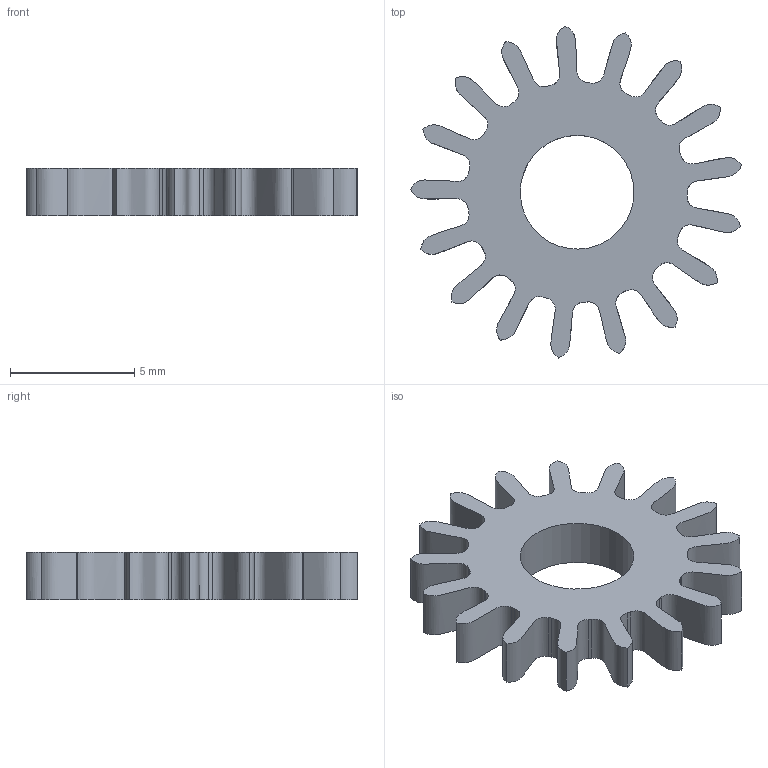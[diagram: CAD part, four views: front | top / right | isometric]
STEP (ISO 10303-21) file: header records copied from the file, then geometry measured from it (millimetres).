
FILE_DESCRIPTION(/* description */ (''),/* implementation_level */ '2;1');
FILE_NAME(/* name */ 'D:\Desktop\WatchCAdFiles\print2endTime\3.5\Solid4.stp',/* time_stamp */ '2019-05-02T16:56:21+02:00',/* author */ ('fkhad'),/* organization */ (''),/* preprocessor_version */ 'ST-DEVELOPER v17',/* originating_system */ 'Autodesk Inventor 2018',/* authorisation */ '');
FILE_SCHEMA (('AUTOMOTIVE_DESIGN { 1 0 10303 214 3 1 1 }'));
Length unit declared in the file: inch
Products named in the file (1): Solid4
Bounding box: 13.35 x 13.38 x 1.93 mm (x, y, z)
Volume: 139.9 mm3; surface area: 355.2 mm2
Topology: 1 solids, 1 shells, 54 faces, 158 edges, 106 vertices
Faces by surface type: bspline 34, cylinder 18, plane 2
Full cylindrical faces by diameter (mm): 4.585 x1
Entity records: 2514 total; most frequent: CARTESIAN_POINT 1169, ORIENTED_EDGE 316, DIRECTION 170, EDGE_CURVE 158, VERTEX_POINT 106, B_SPLINE_CURVE_WITH_KNOTS 68, AXIS2_PLACEMENT_3D 59, EDGE_LOOP 56
